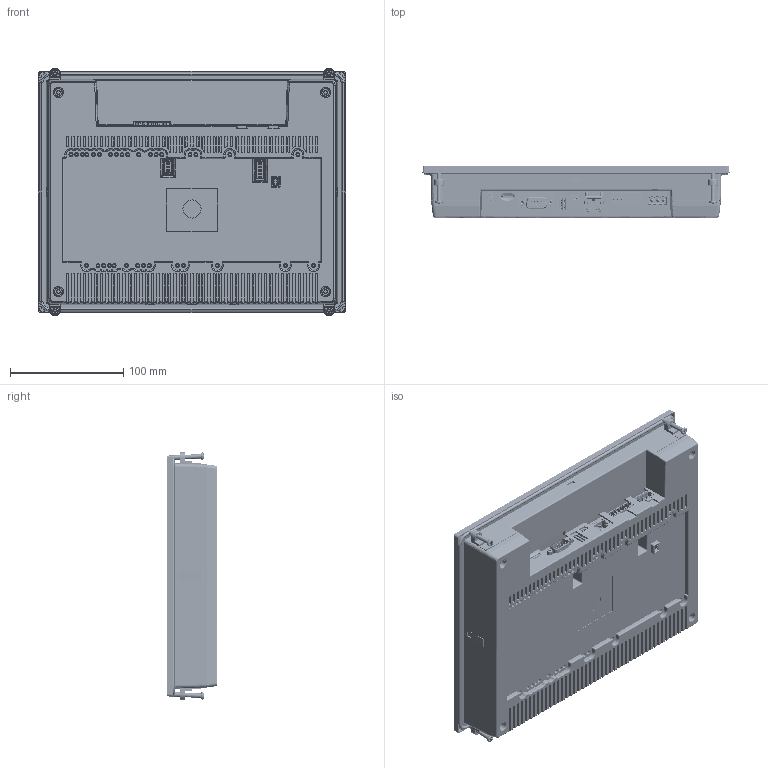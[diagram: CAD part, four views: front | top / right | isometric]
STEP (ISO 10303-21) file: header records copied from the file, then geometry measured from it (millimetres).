
FILE_DESCRIPTION (( 'STEP AP214' ), '1' );
FILE_NAME ('hmi-102-new_asm.STEP', '2021-07-23T13:25:31', ( '' ), ( '' ), 'SwSTEP 2.0', 'SolidWorks 2021', '' );
FILE_SCHEMA (( 'AUTOMOTIVE_DESIGN' ));
Length unit declared in the file: millimetre
Products named in the file (1): hmi-102-new_asm
Bounding box: 271.2 x 44.9 x 218.64 mm (x, y, z)
Surface area: 389763.8 mm2 (no closed solid volume)
Topology: 0 solids, 31 shells, 10629 faces, 28951 edges, 18166 vertices
Faces by surface type: bspline 10628, plane 1
Entity records: 397568 total; most frequent: CARTESIAN_POINT 145330, ORIENTED_EDGE 57280, DIRECTION 29056, EDGE_CURVE 28642, VECTOR 18740, LINE 18740, VERTEX_POINT 18146, EDGE_LOOP 11199
